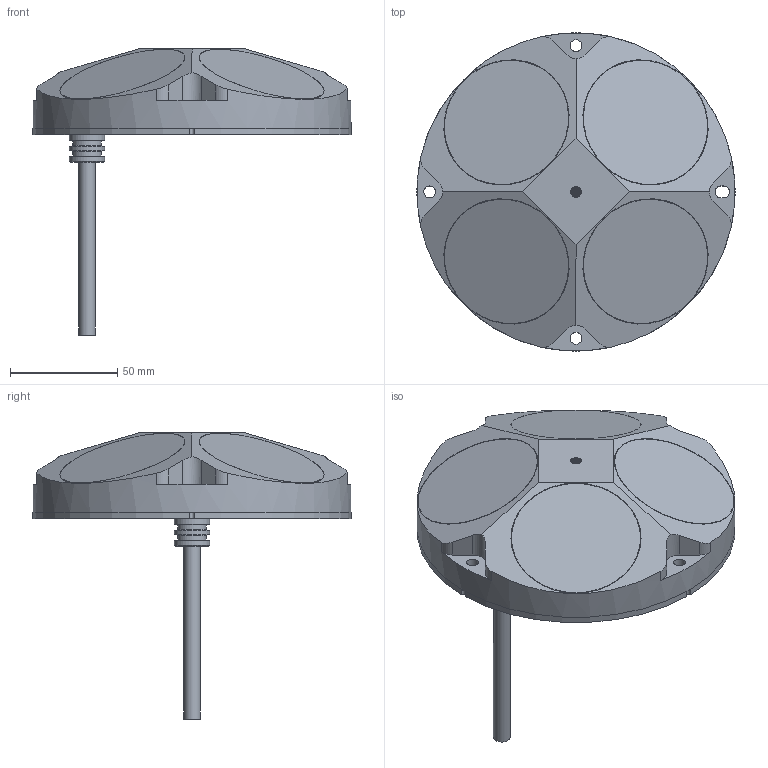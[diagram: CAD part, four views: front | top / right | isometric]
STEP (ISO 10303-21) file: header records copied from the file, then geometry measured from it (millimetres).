
FILE_DESCRIPTION(/* description */ (''),/* implementation_level */ '2;1');
FILE_NAME(/* name */ 'WL-21061-1-1000-REAR-O-RING--DVL-A250--PUBLIC--v2.stp',/* time_stamp */ '2026-02-05T10:10:04+01:00',/* author */ ('Einar'),/* organization */ (''),/* preprocessor_version */ 'ST-DEVELOPER v20.1',/* originating_system */ 'Autodesk Inventor 2026',/* authorisation */ '');
FILE_SCHEMA (('AUTOMOTIVE_DESIGN { 1 0 10303 214 3 1 1 }'));
Length unit declared in the file: millimetre
Products named in the file (1): WL-21061-1-S-P-4000-SIDE-IO--DVL-A250--PUBLIC
Bounding box: 148.5 x 148.5 x 133.5 mm (x, y, z)
Volume: 492691.2 mm3; surface area: 49824.2 mm2
Topology: 1 solids, 1 shells, 282 faces, 715 edges, 468 vertices
Faces by surface type: plane 179, cylinder 50, cone 48, torus 5
Full cylindrical faces by diameter (mm): 4.134 x2, 4.826 x1, 5 x1, 5.556 x3, 5.8 x3, 7.8 x1, 8 x9, 13.4 x2, 16.5 x3, 148.5 x1
Entity records: 8784 total; most frequent: CARTESIAN_POINT 1634, DIRECTION 1439, ORIENTED_EDGE 1408, EDGE_CURVE 704, AXIS2_PLACEMENT_3D 539, VERTEX_POINT 468, LINE 361, VECTOR 361
